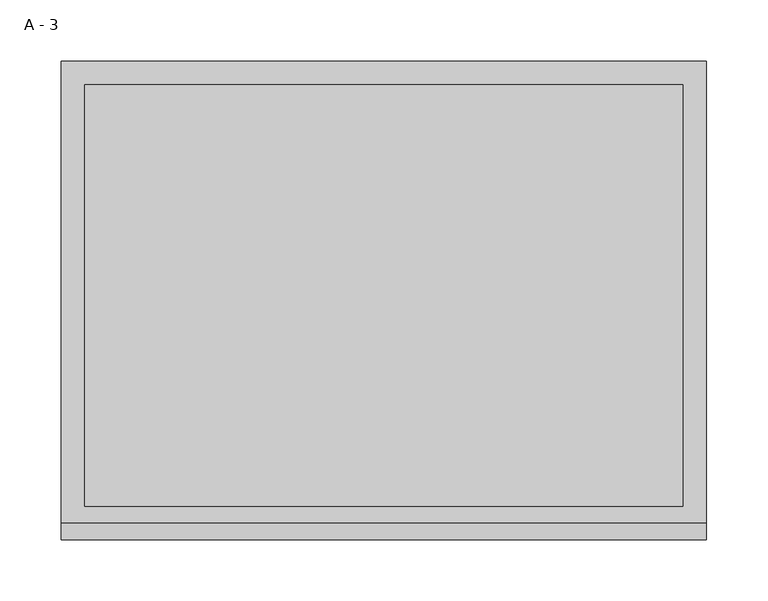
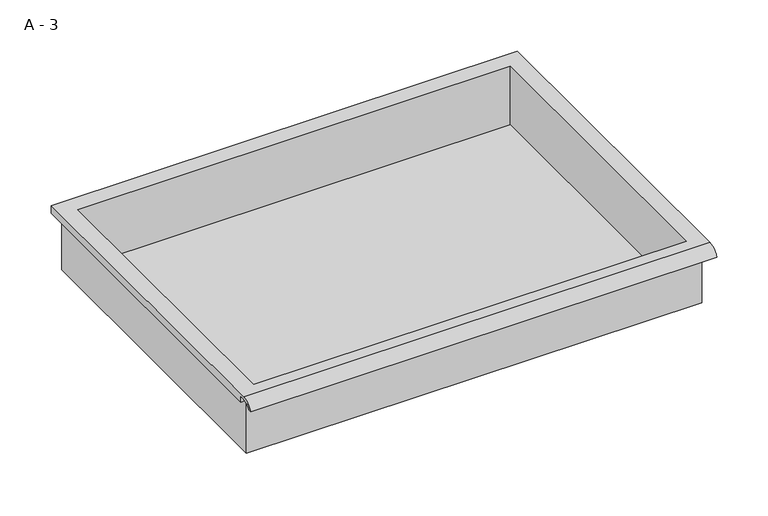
"""IFC4 building model written with IfcOpenShell, lengths in millimetres: furniture geometry, HermanMiller_CoStruc_CO207_Drawer : A - 3."""

from ifc_helpers import new_model, si_unit, frame, origin, place, context, project, spatial, polyline, circle_curve, source, transform, mapped, element, save
from ifc_brep_helpers import plane_surface, cylinder_surface, revolved_surface, advanced_brep


def a_3_ebba6047(model_context):
    return source(origin(), model_context, "Body", "AdvancedBrep", [
        advanced_brep(
        [(-257.1076517, -176.2125, 850.8111), (257.2423483, -176.2125, 850.8111), (257.2423483, -176.2125, 914.3111), (263.5923483, -176.2125, 914.3111), (263.5923483, -176.2125, 920.6182341), (-263.4576517, -176.2125, 920.6182341), (-263.4576517, -176.2125, 914.3111), (-257.1076517, -176.2125, 914.3111), (257.2423483, 185.7375, 850.8111), (-257.1076517, 185.7375, 850.8111), (-257.1076517, 185.7375, 914.3111), (257.2423483, 185.7375, 914.3111), (263.5923483, -181.6070544, 923.8361), (263.5923483, 195.2625, 923.8361), (-263.4576517, 195.2625, 923.8361), (-263.4576517, -181.6070544, 923.8361), (244.5423483, -168.275, 923.8361), (-244.4076517, -168.275, 923.8361), (-244.4076517, 176.2125, 923.8361), (244.5423483, 176.2125, 923.8361), (263.5923483, -195.2625, 914.3111), (263.5923483, -191.8280601, 914.3111), (263.5923483, -180.4714815, 920.6182341), (263.5923483, 195.2625, 914.3111), (-263.4576517, 195.2625, 914.3111), (-263.4576517, -180.4714815, 920.6182341), (-263.4576517, -191.8280601, 914.3111), (-263.4576517, -195.2625, 914.3111), (-244.4076517, -168.275, 853.8372719), (244.5423483, -168.275, 853.8372719), (244.5423483, 176.2125, 853.8372719), (-244.4076517, 176.2125, 853.8372719)],
        [
            (0, 1),
            (1, 2),
            (2, 3),
            (3, 4),
            (4, 5),
            (5, 6),
            (6, 7),
            (7, 0),
            (8, 9),
            (9, 10),
            (10, 11),
            (11, 8),
            (0, 9),
            (8, 1),
            (11, 2),
            (12, 13),
            (13, 14),
            (14, 15),
            (15, 12),
            (16, 17),
            (17, 18),
            (18, 19),
            (19, 16),
            (7, 10),
            (12, 20, circle_curve(frame((263.5923483, -181.6070544, 909.2850859), z_axis=(1.0, 0.0, 0.0), x_axis=(0.0, 1.0, 0.0)), 14.5510141)),
            (20, 21),
            (21, 22, circle_curve(frame((263.5923483, -181.6070544, 909.2850859), z_axis=(-1.0, 0.0, 0.0), x_axis=(0.0, 1.0, 0.0)), 11.3898979)),
            (22, 4),
            (3, 23),
            (23, 13),
            (14, 24),
            (24, 6),
            (5, 25),
            (25, 26, circle_curve(frame((-263.4576517, -181.6070544, 909.2850859), z_axis=(1.0, 0.0, 0.0), x_axis=(0.0, 1.0, 0.0)), 11.3898979)),
            (26, 27),
            (27, 15, circle_curve(frame((-263.4576517, -181.6070544, 909.2850859), z_axis=(-1.0, 0.0, 0.0), x_axis=(0.0, 1.0, 0.0)), 14.5510141)),
            (27, 20),
            (26, 21),
            (25, 22),
            (24, 23),
            (28, 29),
            (29, 30),
            (30, 31),
            (31, 28),
            (28, 17),
            (16, 29),
            (19, 30),
            (18, 31),
        ],
        [
            plane_surface(frame((257.2423483, -176.2125, 850.8111), z_axis=(0.0, -1.0, 0.0), x_axis=(1.0, 0.0, 0.0))),
            plane_surface(frame((257.2423483, 185.7375, 850.8111), z_axis=(0.0, 1.0, 0.0), x_axis=(-1.0, 0.0, 0.0))),
            plane_surface(frame((-257.1076517, -176.2125, 850.8111), z_axis=(0.0, 0.0, -1.0), x_axis=(0.0, 1.0, 0.0))),
            plane_surface(frame((257.2423483, -176.2125, 850.8111), z_axis=(1.0, 0.0, 0.0), x_axis=(0.0, 1.0, 0.0))),
            plane_surface(frame((257.2423483, -176.2125, 923.8361), z_axis=(0.0, 0.0, 1.0), x_axis=(0.0, 1.0, 0.0))),
            plane_surface(frame((-257.1076517, -176.2125, 923.8361), z_axis=(-1.0, 0.0, 0.0), x_axis=(0.0, 1.0, 0.0))),
            plane_surface(frame((263.5923483, 195.2625, 923.8361), z_axis=(1.0, 0.0, 0.0), x_axis=(0.0, -1.0, 0.0))),
            plane_surface(frame((-263.4576517, 195.2625, 923.8361), z_axis=(-1.0, 0.0, 0.0), x_axis=(0.0, 1.0, 0.0))),
            cylinder_surface(frame((-263.4576517, -181.6070544, 909.2850859), z_axis=(1.0, 0.0, 0.0), x_axis=(0.0, 1.0, 0.0)), 14.5510141),
            plane_surface(frame((263.5923483, -195.2625, 914.3111), z_axis=(0.0, -7.1729970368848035e-12, -1.0), x_axis=(-1.0, 0.0, 0.0))),
            revolved_surface(polyline([(-263.4576517, -170.21715650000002, 909.2850859), (263.59234829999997, -170.21715650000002, 909.2850859)]), (-263.4576517, -181.6070544, 909.2850859), (-1.0, 0.0, 0.0)),
            plane_surface(frame((263.5923483, -180.4714815, 920.6182341), z_axis=(0.0, -1.786141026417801e-11, -1.0), x_axis=(-1.0, 0.0, 0.0))),
            plane_surface(frame((263.5923483, -176.2125, 914.3111), z_axis=(0.0, 0.0, -1.0), x_axis=(-1.0, 0.0, 0.0))),
            plane_surface(frame((263.5923483, 195.2625, 914.3111), z_axis=(0.0, 1.0, 0.0), x_axis=(-1.0, 0.0, 0.0))),
            plane_surface(frame((244.5423483, -168.275, 853.8372719), z_axis=(0.0, 0.0, 1.0), x_axis=(-1.0, 0.0, 0.0))),
            plane_surface(frame((-244.4076517, -168.275, 923.8361), z_axis=(0.0, 1.0, 0.0), x_axis=(0.0, 0.0, -1.0))),
            plane_surface(frame((244.5423483, -168.275, 923.8361), z_axis=(-1.0, 0.0, 0.0), x_axis=(0.0, 0.0, -1.0))),
            plane_surface(frame((244.5423483, 176.2125, 923.8361), z_axis=(0.0, -1.0, 0.0), x_axis=(0.0, 0.0, -1.0))),
            plane_surface(frame((-244.4076517, 176.2125, 923.8361), z_axis=(1.0, 0.0, 0.0), x_axis=(0.0, 0.0, -1.0))),
        ],
        [
            (0, [[1, 2, 3, 4, 5, 6, 7, 8]]),
            (1, [[9, 10, 11, 12]]),
            (2, [[-1, 13, -9, 14]]),
            (3, [[-14, -12, 15, -2]]),
            (4, [[16, 17, 18, 19], [20, 21, 22, 23]]),
            (5, [[-13, -8, 24, -10]]),
            (6, [[-16, 25, 26, 27, 28, -4, 29, 30]]),
            (7, [[31, 32, -6, 33, 34, 35, 36, -18]]),
            (8, [[-25, -19, -36, 37]]),
            (9, [[-26, -37, -35, 38]]),
            (10, [[-27, -38, -34, 39]]),
            (11, [[-28, -39, -33, -5]]),
            (12, [[-29, -3, -15, -11, -24, -7, -32, 40]]),
            (13, [[-30, -40, -31, -17]]),
            (14, [[41, 42, 43, 44]]),
            (15, [[-41, 45, -20, 46]]),
            (16, [[-42, -46, -23, 47]]),
            (17, [[-43, -47, -22, 48]]),
            (18, [[-44, -48, -21, -45]]),
        ],
    ),
    ])


if __name__ == "__main__":
    model = new_model("IFC4")
    model_context = context("Model", 3, world=origin())
    ifc_project = project(units=[si_unit("LENGTHUNIT", "METRE", prefix="MILLI")], contexts=[model_context])
    site = spatial("IfcSite", under=ifc_project)
    building = spatial("IfcBuilding", under=site)
    placement = place(None, origin())
    a_3_shape = a_3_ebba6047(model_context)
    element("IfcFurniture", 1, ObjectType="HermanMiller_CoStruc_CO207_Drawer : A - 3", at=placement, inside=building, context=model_context, shape_type="MappedRepresentation", body=[
        mapped(a_3_shape, transform((0.0, 0.0, 0.0), x_axis=(1.0, 0.0, 0.0), y_axis=(0.0, 1.0, 0.0), z_axis=(0.0, 0.0, 1.0))),
    ])
    save(model, "model.ifc")
